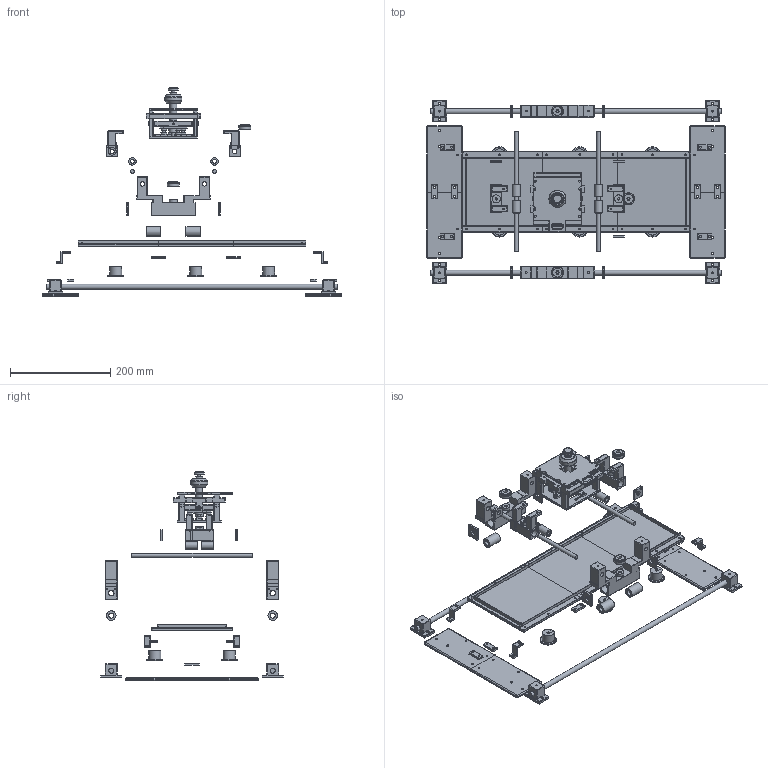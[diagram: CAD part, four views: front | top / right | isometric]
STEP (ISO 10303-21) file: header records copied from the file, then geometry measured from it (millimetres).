
FILE_DESCRIPTION(('Open CASCADE Model'),'2;1');
FILE_NAME('Open CASCADE Shape Model','2026-10-14T14:01:30',('Author'),( 'Open CASCADE'),'Open CASCADE STEP processor 7.8','Open CASCADE 7.8' ,'Unknown');
FILE_SCHEMA(('AUTOMOTIVE_DESIGN { 1 0 10303 214 1 1 1 1 }'));
Length unit declared in the file: millimetre
Products named in the file (38): Adaptive_Keyboard_V5_Exploded; 01_FIXED_FRAME; C03_base_left_front__01; C03_base_left_rear__01; C03_base_right_front__01; C03_base_right_rear__01; R04_splice_bar__05; R06_low_x_rail_post__01; ROD_X_10mm_580mm__01; 02_RAISED_TRAY; C01_raised_tray_1__01; C01_raised_tray_2__01; C01_raised_tray_3__01; R02_tray_pedestal_20mm__01; R05_tray_to_stage_step_bracket__01; 03_XY_BRIDGE; C07_bridge_x_foot__01; R08_x_bearing_end_cap__01; 16_m4_drag_knob__01; LM10UU_ENVELOPE__01; ROD_Y_8mm_240mm__01; 04_HEAD_CARRIAGES; C09_y_carriage_with_head_legs__01; C10_y_bearing_end_cap__01; LM8UU_ENVELOPE__01; 05_FIVE_KEY_HEAD; 06_x_carriage_upper__01; 07_head_stator__01; 11_outer_gimbal__01; 12_joystick_cam_stem__01; 13_cross_gate_transport_loop__01; 14_hollow_grip__01; 15_center_pushrod_button__01; 17_center_return_stop_collar__01; 08_plunger_guide__01; 09_direction_plunger__01; 10_contact_foot__01; 18_outer_pivot_head_spacer__01
Assembly tree (84 placements, depth 3):
  Adaptive_Keyboard_V5_Exploded
    01_FIXED_FRAME
      C03_base_left_front__01
      C03_base_left_rear__01
      C03_base_right_front__01
      C03_base_right_rear__01
      R04_splice_bar__05  x4
      R06_low_x_rail_post__01  x4
      ROD_X_10mm_580mm__01  x2
    02_RAISED_TRAY
      C01_raised_tray_1__01
      C01_raised_tray_2__01
      C01_raised_tray_3__01
      R02_tray_pedestal_20mm__01  x6
      R04_splice_bar__05  x4
      R05_tray_to_stage_step_bracket__01  x4
    03_XY_BRIDGE
      C07_bridge_x_foot__01  x2
      R08_x_bearing_end_cap__01  x4
      16_m4_drag_knob__01  x2
      LM10UU_ENVELOPE__01  x4
      ROD_Y_8mm_240mm__01  x2
    04_HEAD_CARRIAGES
      C09_y_carriage_with_head_legs__01  x2
      C10_y_bearing_end_cap__01  x4
      16_m4_drag_knob__01
      LM8UU_ENVELOPE__01  x4
    05_FIVE_KEY_HEAD
      06_x_carriage_upper__01
      07_head_stator__01
      11_outer_gimbal__01
      12_joystick_cam_stem__01
      13_cross_gate_transport_loop__01
      14_hollow_grip__01
      15_center_pushrod_button__01
      17_center_return_stop_collar__01
      08_plunger_guide__01  x4
      09_direction_plunger__01  x4
      10_contact_foot__01  x5
      18_outer_pivot_head_spacer__01  x2
Bounding box: 594.65 x 364.09 x 418 mm (x, y, z)
Volume: 1410609.5 mm3; surface area: 581699.1 mm2
Topology: 79 solids, 79 shells, 3324 faces, 8303 edges, 4994 vertices
Faces by surface type: plane 1784, cylinder 1200, sphere 293, torus 33, bspline 7, revolution 4, cone 3
Full cylindrical faces by diameter (mm): 2.7 x21, 3.4 x143, 4.4 x27, 5 x4, 5.6 x4, 6.2 x6, 6.4 x1, 6.6 x1, 6.8 x2, 8 x9, 8.1 x4, 8.4 x4, 8.45 x6, 8.8 x4, 8.9 x4, 10 x2, 10.1 x4, 10.45 x6, 10.5 x5, 10.9 x4, 12 x4, 14 x2, 14.5 x1, 15 x4, 15.2 x4, 16 x5, 18 x3, 19 x4, 19.2 x4, 20 x1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
Entity records: 60970 total; most frequent: CARTESIAN_POINT 11869, DIRECTION 10233, ORIENTED_EDGE 9714, EDGE_CURVE 4857, LINE 3441, VECTOR 3441, AXIS2_PLACEMENT_3D 3394, VERTEX_POINT 3042
